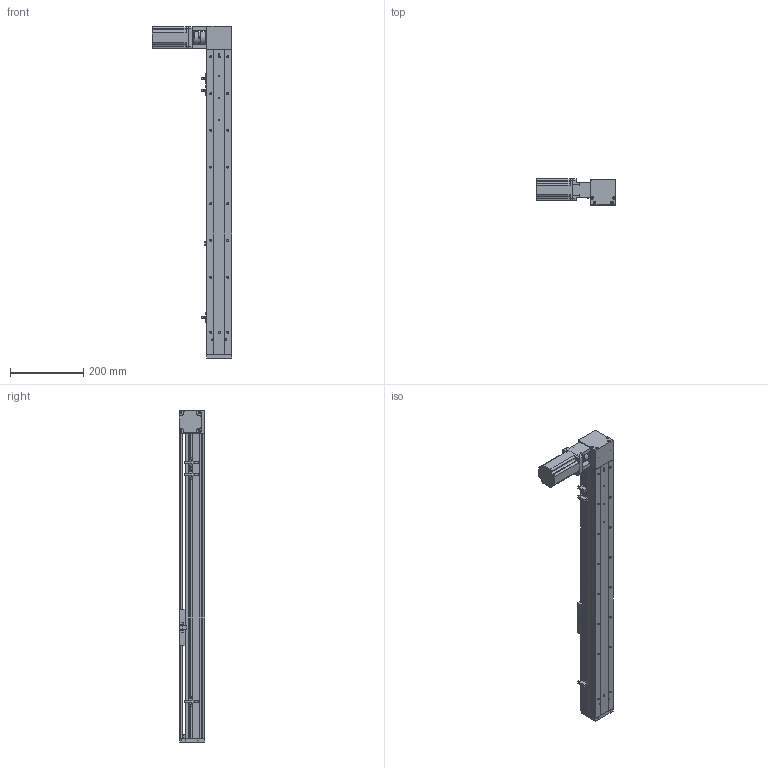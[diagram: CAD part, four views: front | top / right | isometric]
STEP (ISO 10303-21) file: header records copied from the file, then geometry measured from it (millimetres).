
FILE_DESCRIPTION (( 'STEP AP203' ), '1' );
FILE_NAME ('ML68-S650-BL.STEP', '2016-06-01T03:14:46', ( '微软用户' ), ( '微软中国' ), 'SwSTEP 2.0', 'SolidWorks 2014', '' );
FILE_SCHEMA (( 'CONFIG_CONTROL_DESIGN' ));
Length unit declared in the file: millimetre
Products named in the file (12): 換覜ん; ML68-奻裔^ML68-S650-BL; 三协电机MH201N2_預設; ML68雄赽釱; ML68滅鳥啣盓傅輸; ML68-S650-BL; ML68-BL傷啣; 60換覜結え; ML68-菁釱^ML68-S650-BL; 联轴器（CS34X32-8X14）_預設; ML68傷啣; MS68-TS0204鎮湛嘐隅釱_蕼偞
Assembly tree (13 placements, depth 2):
  ML68-S650-BL
    ML68-BL傷啣
    60換覜結え
    ML68-菁釱^ML68-S650-BL
    ML68傷啣
    換覜ん  x3
    三协电机MH201N2_預設
    联轴器（CS34X32-8X14）_預設
    MS68-TS0204鎮湛嘐隅釱_蕼偞
    ML68-奻裔^ML68-S650-BL
    ML68雄赽釱
    ML68滅鳥啣盓傅輸
Bounding box: 216.5 x 70.5 x 904 mm (x, y, z)
Volume: 1708674.4 mm3; surface area: 610545.9 mm2
Topology: 14 solids, 14 shells, 915 faces, 2481 edges, 1571 vertices
Faces by surface type: cylinder 427, plane 372, cone 100, bspline 16
Entity records: 29377 total; most frequent: CARTESIAN_POINT 6099, DIRECTION 4723, ORIENTED_EDGE 4478, EDGE_CURVE 2239, AXIS2_PLACEMENT_3D 1733, VERTEX_POINT 1459, LINE 1257, VECTOR 1257
